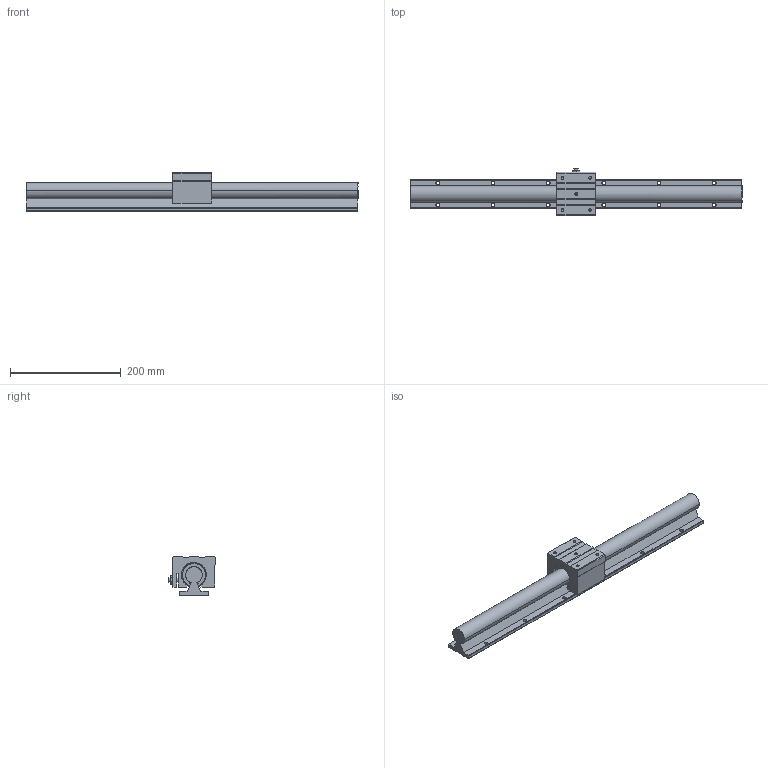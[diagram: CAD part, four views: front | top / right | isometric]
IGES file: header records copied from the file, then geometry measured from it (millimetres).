
Global section: file name: No Iges File Name specified; native system: AutoDesk Inventor R10; preprocessor: AutoDesk Inventor Iges Exporter R10; author: No Author specified; organization: No Organization specified; date: 20101221.093855; units: millimetre
Bounding box: 600 x 85 x 70 mm (x, y, z)
Surface area: 170379.4 mm2 (no closed solid volume)
Topology: 0 solids, 0 shells, 280 faces, 1818 edges, 1794 vertices
Faces by surface type: bspline 280
